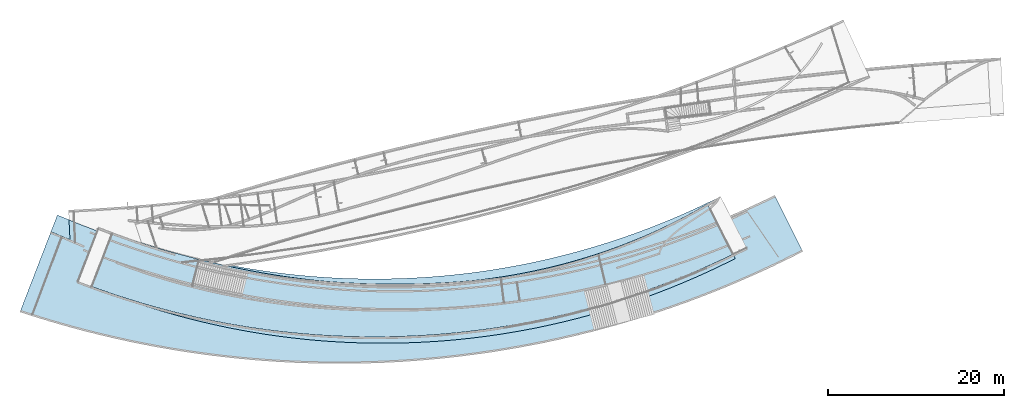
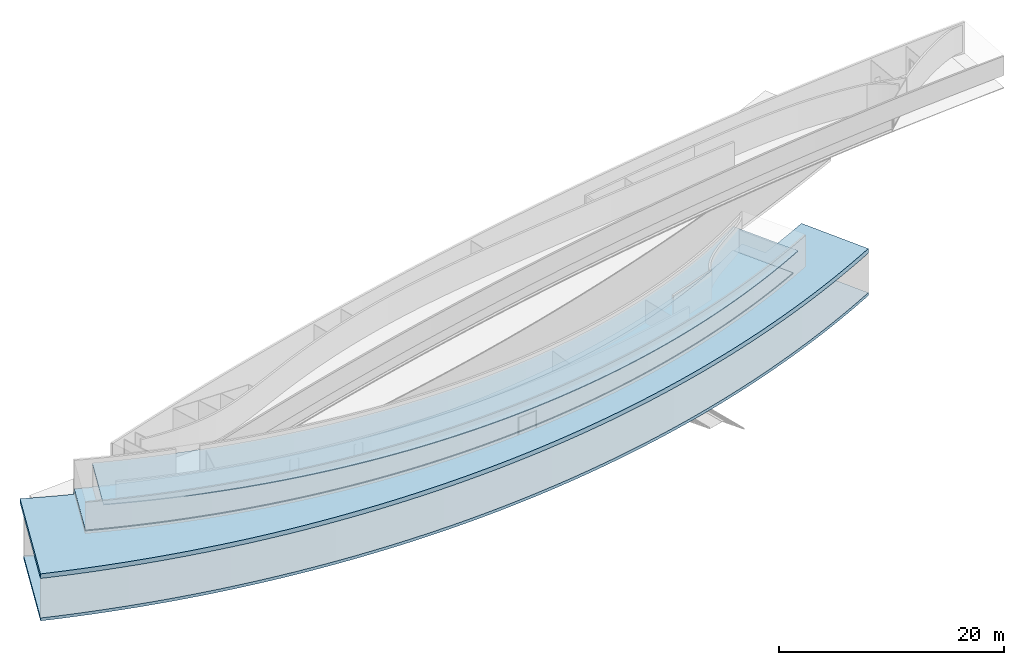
# Not in any storey, part 1 of 16: 4 slabs.
"""IFC2X3 model written with IfcOpenShell, lengths in millimetres."""

from ifc_helpers import new_model, entity, si_unit, converted_unit, point, direction, frame, frame_2d, origin_with_axes, place, context, project, spatial, polyline, circle_curve, trimmed, segment, composite_curve, outline, extrude, material, layer, layer_set, type_object, element, save


model = new_model("IFC2X3")

# Units and contexts
model_context = context("Model", 3, precision=1.0, world=origin_with_axes(), true_north=direction((0.0, 1.0)))
ifc_project = project(units=[converted_unit("PLANEANGLEUNIT", "DEGREE", entity("IfcRatioMeasure", 0.017453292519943), si_unit("PLANEANGLEUNIT", "RADIAN"), dimensions=[0, 0, 0, 0, 0, 0, 0]), si_unit("LENGTHUNIT", "METRE", prefix="MILLI")], contexts=[model_context])

# Site
site_placement = place(None, origin_with_axes())
site = spatial("IfcSite", under=ifc_project, at=site_placement, Name="Site", CompositionType="ELEMENT")

# Slabs
ifc_material_1 = material(Name="Slab layer 1")
ifc_layer_1 = layer(ifc_material_1, 320.0)
ifc_layer_set_1 = layer_set([ifc_layer_1], Name="HOKI 1FB")
slab_type_1 = type_object("IfcSlabType", Name="HOKI 1FB", PredefinedType="FLOOR", material=ifc_layer_set_1)
slab_1_placement = place(site_placement, frame((-56228.0985082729, -2741.82324854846, 4720.0), z_axis=(0.0, 0.0, 1.0), x_axis=(-0.360305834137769, -0.932834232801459, 0.0)))
element("IfcSlab", 1, at=slab_1_placement, inside=site, type_object=slab_type_1, ObjectType="HOKI 1FB", PredefinedType="FLOOR", context=model_context, shape_type="SweptSolid", body=[
    extrude(outline(composite_curve([segment(polyline([(2083.2343145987, 999.126972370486), (2150.22765443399, 3342.82345887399)]), True, "CONTINUOUS"), segment(polyline([(2150.22765443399, 3342.82345887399), (82.2299675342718, 2423.48125956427)]), True, "CONTINUOUS"), segment(polyline([(82.2299675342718, 2423.48125956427), (93.673241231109, 3051.10748346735), (101.074393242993, 3679.63938062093), (104.416716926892, 4309.03947701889), (103.683948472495, 4939.26998578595), (98.8602733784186, 5570.29281337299), (89.9303328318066, 6202.06956590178), (76.8792299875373, 6834.56155565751), (59.6925361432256, 7467.72980772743), (38.3562968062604, 8101.53506678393), (12.8570376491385, 8735.93780401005), (-16.8182296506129, 9370.89822416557), (-50.6820016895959, 10006.3762727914), (-88.7462777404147, 10642.3316435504), (-131.022554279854, 11278.7237857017), (-177.521819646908, 11915.5119117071), (-228.254548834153, 12552.655004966), (-283.230698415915, 13190.1118276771), (-342.459701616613, 13827.8409288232), (-405.950463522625, 14465.8006522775), (-473.711356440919, 15103.9491450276), (-545.750215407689, 15742.2443655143), (-622.074333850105, 16380.6440920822), (-702.690459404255, 17019.1059315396), (-787.604789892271, 17657.5873278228), (-876.822969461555, 18296.0455707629), (-970.350084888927, 18934.4378049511), (-1068.19066205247, 19572.7210386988), (-1170.34866257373, 20210.8521530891), (-1276.82748063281, 20848.7879111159), (-1387.6299399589, 21486.4849669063), (-1502.75829099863, 22123.8998750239), (-1622.21420826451, 22760.989099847), (-1745.9987878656, 23397.7090250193), (-1874.11254522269, 24034.0159629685), (-2006.55541296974, 24669.866164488), (-2143.32673904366, 25305.2158283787), (-2284.42528496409, 25940.0211111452), (-2429.84922430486, 26574.2381367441), (-2579.59614135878, 27207.823006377), (-2733.66302999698, 27840.7318083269), (-2892.04629272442, 28472.9206278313), (-3054.74173993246, 29104.3455569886), (-3221.74458934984, 29734.9627046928), (-3393.04946569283, 30364.7282065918), (-3568.65040051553, 30993.598235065), (-3748.54083226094, 31621.5290092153), (-3932.71360651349, 32248.4768048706), (-4121.16097645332, 32874.3979645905), (-4313.87460351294, 33499.2489076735), (-4510.84555823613, 34122.9861401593), (-4712.06432133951, 34745.5662648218), (-4917.5207849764, 35366.9459911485), (-5127.20425420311, 35987.0821453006), (-5341.10344864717, 36605.9316800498), (-5559.20650437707, 37223.4516846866), (-5781.50097597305, 37839.5993948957), (-6007.9738387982, 38454.3322025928), (-6238.61149146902, 39067.6076657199), (-6473.39975852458, 39679.3835179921), (-6712.32389329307, 40289.6176785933), (-6955.36858095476, 40898.2682618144), (-7202.51794179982, 41505.2935866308), (-7453.75553467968, 42110.652186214), (-7709.06436065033, 42714.3028173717), (-7968.42686680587, 43316.2044699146), (-8231.82495030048, 43916.316375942), (-8499.23996255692, 44514.5980190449), (-8770.65271365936, 45111.0091434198), (-9046.04347692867, 45705.5097628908), (-9325.39199367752, 46298.0601698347), (-9608.67747814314, 46888.6209440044), (-9895.87862259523, 47477.1529612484), (-10186.9736026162, 48063.6174021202), (-10481.9400825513, 48647.9757603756), (-10780.7552211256, 49230.1898513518), (-11083.3956772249, 49810.2218202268), (-11389.8376158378, 50388.0341501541), (-11700.0567141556, 50963.5896702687), (-12014.0281678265, 51536.8515635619), (-12331.7266973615, 52107.7833746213), (-12653.1265546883, 52676.3490172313), (-12978.2015298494, 53242.512781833), (-13306.9249578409, 53806.2393428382), (-13639.2697255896, 54367.4937657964), (-13975.2082790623, 54926.2415144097), (-14314.712630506, 55482.448457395), (-14657.7543658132, 56036.0808751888), (-15004.3046520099, 56587.1054664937), (-15354.3342448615, 57135.4893546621), (-15707.8134965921, 57681.2000939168), (-16064.7123637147, 58224.2056754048), (-16425.0004149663, 58764.474533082), (-16788.6468393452, 59301.975549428), (-17155.6204542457, 59836.6780609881), (-17525.8897136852, 60368.55186374), (-17899.422716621, 60897.567218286), (-18276.1872153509, 61423.6948548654), (-18656.1506239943, 61946.9059781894), (-19039.2800270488, 62467.1722720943), (-19425.5421880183, 62984.4659040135), (-19814.9035581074, 63498.759529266), (-20207.3302849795, 64010.0262951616), (-20602.7882215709, 64518.2398449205), (-21001.2429349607, 65023.3743214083), (-21402.6597152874, 65525.4043706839), (-21807.0035847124, 66024.3051453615), (-22214.2393064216, 66520.0523077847), (-22624.3313936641, 67012.6220330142), (-23037.2441188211, 67501.9910116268), (-23452.9415225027, 67988.1364523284), (-23871.3874226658, 68471.0360843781), (-24292.5454237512, 68950.6681598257), (-24716.3789258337, 69427.0114555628), (-25142.8511337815, 69900.0452751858), (-25571.9250664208, 70369.7494506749), (-26003.5635657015, 70836.1043438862), (-26437.7293058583, 71299.09084786), (-26874.3848025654, 71758.6903879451), (-27313.4924220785, 72214.8849227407), (-27755.0143903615, 72667.6569448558), (-28198.9128021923, 73116.9894814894), (-28645.1496302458, 73562.8660948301), (-29093.6867341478, 74005.2708822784), (-29544.4858694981, 74444.188476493), (-29997.508696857, 74879.6040452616), (-30452.7167906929, 75311.5032911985), (-30910.071648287, 75739.8724512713), (-31369.5346985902, 76164.6982961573)]), True, "CONTINUOUS"), segment(polyline([(-31369.5346985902, 76164.6982961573), (-26588.9971246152, 81421.6834085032)]), True, "CONTINUOUS"), segment(polyline([(-26588.9971246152, 81421.6834085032), (-26070.0650881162, 80956.7530310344), (-25553.3383801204, 80488.1254933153), (-25038.8545271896, 80015.814414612), (-24526.6509764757, 79539.8339016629), (-24016.7650880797, 79060.1985488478), (-23509.2341273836, 78576.9234382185), (-23004.0952573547, 78090.0241393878), (-22501.3855308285, 77599.5167092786), (-22001.1418827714, 77105.4176917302), (-21503.4011225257, 76607.744116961), (-21008.1999260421, 76106.5135008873), (-20515.5748280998, 75601.7438442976), (-20025.5622145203, 75093.4536318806), (-19538.1983143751, 74581.6618311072), (-19053.5191921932, 74066.3878909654), (-18571.5607401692, 73547.6517405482), (-18092.3586703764, 73025.473787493), (-17615.9485069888, 72499.8749162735), (-17142.3655785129, 71970.8764863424), (-16671.6450100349, 71438.5003301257), (-16203.8217154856, 70902.7687508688), (-15738.9303899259, 70363.7045203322), (-15277.0055018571, 69821.3308763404), (-14818.0812855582, 69275.67152018), (-14362.1917334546, 68726.7506138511), (-13909.3705885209, 68174.5927771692), (-13459.6513367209, 67619.2230847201), (-13013.0671994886, 67060.6670626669), (-12569.6511262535, 66498.9506854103), (-12129.4357870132, 65934.1003721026), (-11692.4535649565, 65366.1429830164), (-11258.7365491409, 64795.1058157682), (-10828.3165272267, 64221.0166013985), (-10401.2249782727, 63643.9035003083), (-9977.49306559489, 63063.7950980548), (-9557.15162969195, 62480.7204010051), (-9140.23118124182, 61894.7088318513), (-8726.76189417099, 61305.7902249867), (-8316.77359880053, 60713.9948217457), (-7910.29577507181, 60119.3532655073), (-7507.35754585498, 59521.8965966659), (-7107.98767034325, 58921.6562474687), (-6712.21453753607, 58318.6640367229), (-6320.06615981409, 57712.9521643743), (-5931.57016660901, 57104.5532059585), (-5546.75379817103, 56493.5001069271), (-5165.64389943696, 55879.8261768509), (-4788.26691400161, 55263.5650835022), (-4414.64887819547, 54644.7508468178), (-4044.81541527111, 54023.4178327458), (-3678.79172970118, 53399.6007469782), (-3316.60260159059, 52773.3346285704), (-2958.2723812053, 52144.6548434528), (-2603.82498362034, 51513.597077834), (-2253.28388348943, 50880.1973314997), (-1906.67210993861, 50244.4919110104), (-1564.01224158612, 49606.5174227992), (-1225.32640169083, 48966.3107661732), (-890.636253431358, 48323.9091262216), (-559.962995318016, 47679.3499666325), (-233.327356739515, 47032.6710224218), (89.2504063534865, 46383.9102925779), (407.750515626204, 45733.1060326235), (722.153674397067, 45080.2967470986), (1032.44107153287, 44425.5211819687), (1338.59438520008, 43768.8183169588), (1640.59578647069, 43110.2273578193), (1938.42794278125, 42449.787728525), (2232.07402124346, 41787.5390634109), (2521.51769180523, 41123.521199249), (2806.74313026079, 40457.774167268), (3087.73502110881, 39790.3381851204), (3364.47856025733, 39121.2536488), (3636.95945757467, 38450.561124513), (3905.16393928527, 37778.3013405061), (4169.0787502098, 37104.5151788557), (4428.69115584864, 36429.243667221), (4683.98894430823, 35752.5279705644), (4934.96042806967, 35074.4093828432), (5181.59444559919, 34394.9293186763), (5423.88036279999, 33714.1293049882), (5661.80807430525, 33032.0509726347), (5895.36800461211, 32348.7360480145), (6124.55110905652, 31664.2263446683), (6349.34887462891, 30978.5637548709), (6569.75332063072, 30291.7902412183), (6785.75699917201, 29603.9478282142), (6997.35299551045, 28915.0785938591), (7204.5349282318, 28225.2246612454), (7407.29694927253, 27534.4281901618), (7605.63374378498, 26842.7313687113), (7799.54052984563, 26150.1764049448), (7989.01305800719, 25456.8055185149), (8174.04761069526, 24762.6609323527), (8354.64100145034, 24067.7848643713), (8530.79057401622, 23372.2195191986), (8702.49420127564, 22676.007079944), (8869.75028403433, 21979.1897000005), (9032.55774965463, 21281.8094948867), (9190.91605053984, 20583.908534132), (9344.82516247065, 19885.528833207), (9494.28558279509, 19186.712345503), (9639.29832847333, 18487.5009543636), (9779.8649339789, 17787.9364651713), (9915.98744905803, 17088.0605974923), (10047.6684363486, 16387.9149772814), (10174.9109688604, 15687.5411291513), (10297.7186273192, 14986.9804687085), (10416.0954973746, 14286.2742949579), (10530.0461666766, 13585.46378278), (10639.5757218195, 12884.589975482), (10744.689745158, 12183.6937774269), (10845.3943114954, 11482.8159467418), (10941.6959846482, 10781.9970881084), (11033.6018138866, 10081.2776456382), (11121.1193302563, 9380.69789583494), (11204.2565427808, 8680.29794064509), (11283.0219345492, 7980.11770060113), (11357.4244586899, 7280.19690805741), (11427.4735342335, 6580.57510052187), (11493.1790418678, 5881.29161408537), (11554.5513195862, 5182.38557695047), (11611.6011582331, 4483.89590306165), (11664.3397969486, 3785.8612858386), (11712.7789185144, 3088.32019201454), (11756.9306446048, 2391.31085558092), (11796.8075309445, 1694.8712718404), (11832.4225623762, 999.039191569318)]), True, "CONTINUOUS"), segment(polyline([(11832.4225623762, 999.039191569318), (2083.2343145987, 999.126972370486)]), True, "DISCONTINUOUS")], self_intersect="UNKNOWN")), frame((0.0, 0.0, -320.0), z_axis=(0.0, 0.0, 1.0), x_axis=(1.0, 0.0, 0.0)), (0.0, 0.0, 1.0), 320.0),
])
ifc_material_2 = material(Name="Slab layer 1")
ifc_layer_2 = layer(ifc_material_2, 100.0)
ifc_layer_set_2 = layer_set([ifc_layer_2], Name="HOKI slab")
slab_type_2 = type_object("IfcSlabType", Name="HOKI slab", PredefinedType="FLOOR", material=ifc_layer_set_2)
slab_2_placement = place(site_placement, frame((-53095.9532852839, -10869.0505848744, 9850.0), z_axis=(0.0, 0.0, 1.0), x_axis=(0.360286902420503, 0.932841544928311, 0.0)))
element("IfcSlab", 2, at=slab_2_placement, inside=site, type_object=slab_type_2, ObjectType="HOKI slab", PredefinedType="FLOOR", context=model_context, shape_type="SweptSolid", body=[
    extrude(outline(composite_curve([segment(polyline([(6727.45744155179, 63.172810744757), (224.759638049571, 62.7009654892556)]), True, "CONTINUOUS"), segment(trimmed(circle_curve(frame_2d((93276.090838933, 197.084674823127), x_axis=(-0.999998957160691, -0.001444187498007)), 93051.4282385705), [point((224.759638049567, 62.7009654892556))], [point((29883.6130514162, 68314.3516281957))], False, "CARTESIAN"), True, "CONTINUOUS"), segment(polyline([(29883.6130514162, 68314.3516281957), (34154.9023441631, 63553.8372493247)]), True, "CONTINUOUS"), segment(polyline([(34154.9023441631, 63553.8372493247), (33766.8945851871, 63246.0167643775), (33380.7110054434, 62934.4877508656), (32996.3798945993, 62619.2548900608), (32613.9294631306, 62300.3233055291), (32233.3878365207, 61977.6985647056), (31854.7830494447, 61651.3866803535), (31478.1430399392, 61321.3941119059), (31103.4956435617, 60987.7277666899), (30730.8685875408, 60650.3950010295), (30360.2894849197, 60309.4036212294), (29991.7858286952, 59964.7618844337), (29625.3849859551, 59616.4784993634), (29261.1141920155, 59264.5626269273), (28899.000544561, 58909.0238807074), (28539.0709977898, 58549.8723273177), (28181.352356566, 58187.1184866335), (27825.8712705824, 57820.7733318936), (27472.6542285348, 57450.8482896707), (27121.7275523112, 57077.355239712), (26773.1173911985, 56700.3065146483), (26426.8497161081, 56319.7148995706), (26082.9503138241, 55935.5936314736), (25741.4447812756, 55547.9563985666), (25402.3585198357, 55156.8173394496), (25065.7167296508, 54762.1910421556), (24731.5444040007, 54364.0925430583), (24399.8663236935, 53962.5373256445), (24070.7070514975, 53557.5413191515), (23744.0909266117, 53149.1208970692), (23420.0420591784, 52737.292875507), (23098.5843248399, 52322.0745114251), (22779.7413593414, 51903.4835007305), (22463.5365531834, 51481.5379762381), (22149.9930463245, 51056.2565054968), (21839.133722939, 50627.6580884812), (21530.9812062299, 50195.7621551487), (21225.5578533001, 49760.5885628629), (20922.8857500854, 49322.1575936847), (20622.9867063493, 48880.489951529), (20325.8822507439, 48435.6067591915), (20031.5936259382, 47987.5295552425), (19740.1417838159, 47536.2802907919), (19451.5473807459, 47081.8813261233), (19165.8307729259, 46624.3554272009), (18883.0120118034, 46163.725762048), (18603.1108395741, 45700.015897), (18326.1466847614, 45233.2497928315), (18052.1386578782, 44763.45180076), (17781.1055471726, 44290.6466583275), (17513.0658144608, 43814.85948516), (17248.0375910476, 43336.1157786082), (16986.0386737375, 42854.44140927), (16727.0865209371, 42369.862616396), (16471.1982488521, 41882.4060031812), (16218.3906277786, 41392.0985319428), (15968.6800784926, 40898.9675191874), (15722.0826687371, 40403.0406305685), (15478.6141098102, 39904.3458757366), (15238.2897532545, 39402.9116030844), (15001.1245876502, 38898.7664943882), (14767.1332355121, 38391.9395593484), (14536.3299502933, 37882.4601300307), (14308.7286134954, 37370.3578552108), (14084.3427318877, 36855.6626946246), (13863.1854348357, 36338.4049131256), (13645.2694717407, 35818.6150747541), (13430.6072095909, 35296.3240367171), (13219.2106306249, 34771.5629432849), (13011.09133011, 34244.3632196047), (12806.260514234, 33714.7565654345), (12604.7289981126, 33182.7749488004), (12406.5072039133, 32648.4505995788), (12211.605159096, 32111.8160030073), (12020.03249477, 31572.9038931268), (11831.7984441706, 31031.7472461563), (11646.9118412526, 30488.3792738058), (11465.3811194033, 29942.8334165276), (11287.2143102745, 29395.14333671), (11112.4190427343, 28845.3429118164), (10941.0025419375, 28293.4662274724), (10772.9716285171, 27739.5475705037), (10608.3327178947, 27183.6214219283), (10447.0918197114, 26625.7224499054), (10289.2545373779, 26065.8855026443), (10134.8260677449, 25504.1456012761), (9983.81120089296, 24940.5379326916), (9836.21432004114, 24375.0978423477), (9692.03940157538, 23807.8608270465), (9551.29001519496, 23238.8625276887), (9413.96932417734, 22668.1387220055), (9280.08008576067, 22095.7253172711), (9149.62465164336, 21521.6583430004), (9022.60496860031, 20945.9739436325), (8899.02257921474, 20368.7083712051), (8778.87862272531, 19789.8979780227), (8662.17383598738, 19209.5792093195), (8548.90855454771, 18627.7885959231), (8439.08271383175, 18044.5627469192), (8332.69585044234, 17459.9383423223), (8229.747103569, 16873.9521257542), (8130.23521650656, 16286.6408971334), (8034.15853828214, 15698.0415053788), (7941.51502538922, 15108.1908411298), (7852.30224362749, 14517.1258294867), (7766.51737004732, 13924.8834227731), (7684.1571949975, 13331.5005933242), (7605.2181242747, 12737.0143263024), (7529.69618137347, 12141.4616125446), (7457.58700983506, 11544.8794414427), (7388.88587569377, 10947.3047938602), (7323.58767001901, 10348.7746350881), (7261.68691155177, 9749.32590784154), (7203.17774943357, 9148.99552530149), (7148.0539660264, 8547.82036420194), (7096.30897982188, 7945.83725796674), (7047.93584843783, 7343.08298989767), (7002.92727170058, 6739.59428641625), (6961.27559481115, 6135.40781036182), (6922.97281159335, 5530.56015434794), (6888.01056782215, 4925.0878341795), (6856.38016463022, 4319.02728233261), (6828.07256199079, 3712.41484149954), (6803.07838227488, 3105.28675820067), (6781.38791388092, 2497.67917646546), (6762.99111493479, 1889.62813158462), (6747.87761705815, 1281.16954393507), (6736.03672920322, 672.339212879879), (6727.45744155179, 63.172810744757)]), True, "CONTINUOUS")], self_intersect="UNKNOWN")), frame((0.0, 0.0, -100.0), z_axis=(0.0, 0.0, -1.0), x_axis=(1.0, 0.0, 0.0)), (0.0, 0.0, -1.0), 100.0),
])
slab_3_placement = place(site_placement, frame((-53082.7506335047, -10869.0505848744, 12450.0), z_axis=(0.0, 0.0, 1.0), x_axis=(0.360286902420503, 0.932841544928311, 0.0)))
element("IfcSlab", 3, at=slab_3_placement, inside=site, type_object=slab_type_2, ObjectType="HOKI slab", PredefinedType="FLOOR", context=model_context, shape_type="SweptSolid", body=[
    extrude(outline(composite_curve([segment(polyline([(6729.26174993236, 1675.00000000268), (231.830495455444, 1675.00000000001)]), True, "CONTINUOUS"), segment(trimmed(circle_curve(frame_2d((88300.0083609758, 3101.68702145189), x_axis=(-0.999868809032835, -0.016197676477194)), 88079.7331308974), [point((231.830495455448, 1675.00000000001))], [point((29526.6393752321, 68704.5107905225))], False, "CARTESIAN"), True, "CONTINUOUS"), segment(polyline([(29526.6393752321, 68704.5107905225), (34154.902344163, 63553.8372493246)]), True, "CONTINUOUS"), segment(polyline([(34154.902344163, 63553.8372493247), (33766.8311362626, 63246.0653707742), (33380.5849506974, 62934.7831308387), (32996.1920918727, 62619.9958945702), (32613.6807849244, 62301.7094500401), (32233.0791699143, 61979.9300096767), (31854.4152960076, 61654.6642114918), (31477.7171156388, 61325.9191201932), (31103.0124786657, 60993.7022281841), (30730.329126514, 60658.0214564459), (30359.6946863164, 60318.8851553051), (29991.1366650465, 59976.3021050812), (29624.6824436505, 59630.2815166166), (29260.3592711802, 59280.8330316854), (28898.1942589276, 58927.9667232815), (28538.2143745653, 58571.6930957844), (28180.4464362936, 58212.023085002), (27824.9171069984, 57848.9680580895), (27471.6528884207, 57482.5398133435), (27120.6801153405, 57112.750579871), (26772.024949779, 56739.6130171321), (26425.7133752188, 56363.1402143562), (26081.7711908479, 55983.345689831), (25740.2240058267, 55600.2433900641), (25401.0972335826, 55213.8476888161), (25064.4160861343, 54824.1733860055), (24730.2055684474, 54431.2357064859), (24398.4904728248, 54035.0502986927), (24069.2953733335, 53635.6332331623), (23742.6446202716, 53233.0010009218), (23418.5623346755, 52827.1705117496), (23097.0724028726, 52418.1590923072), (22778.1984710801, 52005.9844841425), (22461.9639400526, 51590.6648415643), (22148.3919597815, 51172.2187293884), (21837.5054242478, 50750.6651205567), (21529.3269662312, 50326.0233936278), (21223.8789521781, 49898.3133301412), (20921.1834771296, 49467.5551118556), (20621.2623597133, 49033.7693178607), (20324.1371372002, 48596.9769215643), (20029.8290606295, 48157.199287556), (19738.3590900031, 47714.4581683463), (19449.7478895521, 47268.7757009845), (19164.0158230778, 46820.1744035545), (18881.1829493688, 46368.6771715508), (18601.2690176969, 45914.3072741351), (18324.2934633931, 45457.0883502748), (18050.2754035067, 44997.0444047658), (17779.2336325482, 44534.1998041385), (17511.1866183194, 44068.5792724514), (17246.1524978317, 43600.2078869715), (16984.1490733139, 43129.1110737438), (16725.1938083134, 42655.3146030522), (16469.3038238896, 42178.8445847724), (16216.4958949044, 41699.7274636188), (15966.7864464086, 41217.9900142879), (15720.191550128, 40733.6593364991), (15476.7269210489, 40246.7628499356), (15236.4079141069, 39757.3282890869), (14999.2495209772, 39265.3836979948), (14765.2663669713, 38770.9574249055), (14534.4727080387, 38274.07811683), (14306.8824278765, 37774.7747140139), (14082.5090351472, 37273.0764443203), (13861.3656608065, 36769.0128175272), (13643.4650555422, 36262.6136195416), (13428.8195873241, 35753.9089065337), (13217.4412390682, 35242.9289989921), (13009.3416064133, 34729.7044757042), (12804.5318956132, 34214.2661676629), (12603.0229215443, 33696.6451519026), (12404.8251058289, 33176.8727452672), (12209.948475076, 32654.9804981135), (12018.4026592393, 32131.0001879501), (11830.1968900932, 31604.9638130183), (11645.3399998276, 31076.9035858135), (11463.8404197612, 30546.851926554), (11285.7061791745, 30014.841456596), (11110.9449042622, 29480.9049918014), (10939.5638172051, 28945.0755358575), (10771.5697353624, 28407.3862735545), (10606.9690705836, 27867.8705640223), (10445.7678286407, 27326.5619339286), (10287.9716087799, 26783.4940706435), (10133.5856033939, 26238.7008153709), (9982.614597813, 25692.2161562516), (9835.06297021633, 25144.0742214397), (9690.93469166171, 24594.3092721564), (9550.23332623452, 24042.9556957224), (9412.96203131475, 23490.0479985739), (9279.12355796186, 22935.6207992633), (9148.72025141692, 22379.7088214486), (9021.75405172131, 21822.3468868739), (8898.22649445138, 21263.5699083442), (8778.13871156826, 20703.412882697), (8661.49143238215, 20141.9108837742), (8548.28498462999, 19579.0990553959), (8438.51929566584, 19015.012604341), (8332.19389376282, 18449.6867933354), (8229.30790952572, 17883.1569340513), (8129.86007741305, 17315.4583801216), (8033.84873736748, 16746.6265201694), (7941.27183655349, 16176.6967708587), (7852.12693120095, 15605.7045699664), (7766.41118855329, 15033.6853694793), (7684.12138891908, 14460.674628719), (7605.25392782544, 13886.7078074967), (7529.804818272, 13311.8203593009), (7457.7696930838, 12736.0477245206), (7389.14380736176, 12159.4253237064), (7323.92204102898, 11581.9885508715), (7262.09890147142, 11003.7727668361), (7203.66852627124, 10424.8132926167), (7148.62468603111, 9845.14540286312), (7096.96078728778, 9264.80431934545), (7048.66987551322, 8683.82520449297), (7003.74463820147, 8102.24315498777), (6962.17740803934, 7520.09319541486), (6923.96016615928, 6937.41027197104), (6889.08454547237, 6354.22924623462), (6857.54183407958, 5770.58488899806), (6829.32297875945, 5186.51187416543), (6804.41858853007, 4602.04477271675), (6782.8189382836, 4017.21804674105), (6764.51397249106, 3432.06604353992), (6749.49330897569, 2846.62298980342), (6737.74624275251, 2260.9229858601), (6729.26174993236, 1675.00000000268)]), True, "CONTINUOUS")], self_intersect="UNKNOWN")), frame((0.0, 0.0, -100.0), z_axis=(0.0, 0.0, -1.0), x_axis=(1.0, 0.0, 0.0)), (0.0, 0.0, -1.0), 100.0),
])
ifc_material_3 = material(Name="Slab layer 1")
ifc_layer_3 = layer(ifc_material_3, 500.0)
ifc_layer_set_3 = layer_set([ifc_layer_3], Name="HOKI 1FB UP")
slab_type_3 = type_object("IfcSlabType", Name="HOKI 1FB UP", PredefinedType="FLOOR", material=ifc_layer_set_3)
slab_4_placement = place(site_placement, frame((26123.5657594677, -921.832566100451, 9499.99774796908), z_axis=(0.0, 0.0, 1.0), x_axis=(-0.896421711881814, -0.443202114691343, 0.0)))
element("IfcSlab", 4, at=slab_4_placement, inside=site, type_object=slab_type_3, ObjectType="HOKI 1FB UP", PredefinedType="FLOOR", context=model_context, shape_type="SweptSolid", body=[
    extrude(outline(composite_curve([segment(polyline([(70732.6284295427, 30485.4424049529), (70428.1826580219, 30765.1379698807)]), True, "CONTINUOUS"), segment(trimmed(circle_curve(frame_2d((6360.83044983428, 89624.0742585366), x_axis=(0.736406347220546, -0.676539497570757)), 87000.0000000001), [point((70428.1826580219, 30765.1379698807))], [point((5563.78742243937, 2627.72535576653))], False, "CARTESIAN"), True, "CONTINUOUS"), segment(polyline([(5563.78742243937, 2627.72535576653), (5534.71416253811, 157.543131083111)]), True, "CONTINUOUS"), segment(polyline([(5534.71416253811, 157.543131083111), (4840.02054861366, 120.453842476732), (4146.03951126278, 88.3733846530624), (3452.82305201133, 61.2833899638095), (2760.42275966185, 39.1648042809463), (2068.88979962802, 21.9978968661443), (1378.2749035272, 9.76227042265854), (688.628359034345, 2.43687132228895), (0.0, 0.0)]), True, "CONTINUOUS"), segment(polyline([(0.0, 0.0), (-35.9956496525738, -7105.50042437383)]), True, "CONTINUOUS"), segment(polyline([(-35.9956496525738, -7105.50042437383), (660.692970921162, -7114.18662102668), (1358.25876443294, -7118.65819594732), (2056.66488183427, -7118.89979100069), (2755.87420276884, -7114.89646075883), (3455.84934108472, -7106.63367779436), (4156.55265046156, -7094.09733789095), (4857.94623015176, -7077.27376516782), (5559.99193083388, -7056.14971711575), (6262.65136057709, -7030.71238954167), (6965.88589091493, -7000.94942141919), (7669.65666302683, -6966.84889964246), (8373.92459402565, -6928.3993636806), (9078.65038334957, -6885.58981013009), (9783.7945192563, -6838.40969716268), (10489.3172854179, -6786.84894886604), (11195.1787676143, -6730.8979594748), (11901.3388605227, -6670.54759748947), (12607.7572746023, -6605.78920968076), (13314.3935430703, -6536.614624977), (14021.2070289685, -6463.01615823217), (14728.1569323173, -6384.98661387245), (15435.2022973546, -6302.51928941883), (16142.302019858, -6215.60797888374), (16849.4148545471, -6124.24697603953), (17556.4994225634, -6028.43107755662), (18263.5142190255, -5928.15558600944), (18970.4176206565, -5823.41631274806), (19677.1678934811, -5714.20958063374), (20383.7232005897, -5600.53222663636), (21090.0416099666, -5482.38160429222), (21796.0811023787, -5359.75558602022), (22501.7995793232, -5232.65256529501), (23207.1548710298, -5101.07145867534), (23912.1047445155, -4965.01170768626), (24616.606911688, -4824.47328055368), (25320.6190374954, -4679.45667378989), (26024.0987481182, -4529.96291362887), (26727.0036392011, -4375.99355731), (27429.2912841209, -4217.55069420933), (28130.9192422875, -4054.63694681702), (28831.8450674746, -3887.2554715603), (29532.0263161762, -3715.40995947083), (30231.4205559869, -3539.1046366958), (30929.985374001, -3358.34426485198), (31627.6783852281, -3173.13414122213), (32324.4572410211, -2983.48009879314), (33020.2796375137, -2789.38850613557), (33715.1033240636, -2590.86626712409), (34408.8861116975, -2387.92082049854), (35101.5858815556, -2180.56013926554), (35793.1605933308, -1968.79272994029), (36483.5682936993, -1752.62763162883), (37172.7671247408, -1532.07441495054), (37860.7153323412, -1307.14318080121), (38547.3712745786, -1077.84455895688), (39232.6934300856, -844.189706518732), (39916.6404063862, -606.190306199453), (40599.170948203, -363.858564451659), (41280.2439457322, -117.207209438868), (41959.8184428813, 133.750511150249), (42637.8536454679, 389.000832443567), (43314.3089293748, 648.52947488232), (43989.1438486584, 912.321646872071), (44662.3181436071, 1180.36204758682), (45333.7917487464, 1452.63486992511), (46003.524800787, 1729.12380361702), (46671.477646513, 2009.81203848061), (47337.6108506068, 2294.68226782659), (48001.8852034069, 2583.71669200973), (48664.2617285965, 2876.89702212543), (49324.701690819, 3174.20448384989), (49983.1666032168, 3475.61982142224), (50639.6182348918, 3781.1233017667), (51294.0186182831, 4090.69471875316), (51946.3300564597, 4404.31339759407), (52596.5151303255, 4721.95819937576), (53244.536705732, 5043.60752572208), (53890.357940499, 5369.23932358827), (54533.9422913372, 5698.83109018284), (55175.2535206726, 6032.35987801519), (55814.255703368, 6369.80230006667), (56450.9132333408, 6711.13453508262), (57085.1908300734, 7056.33233298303), (57717.0535450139, 7405.37102038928), (58346.4667678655, 7758.22550626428), (58973.3962327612, 8114.87028766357), (59597.8080243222, 8475.27945559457), (60219.6685835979, 8839.42670098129), (60838.9447138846, 9207.28532073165), (61455.6035864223, 9578.82822390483), (62069.6127459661, 9954.02793797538), (62680.9401162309, 10332.8566151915), (63289.5540052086, 10715.2860390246), (63895.4231103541, 11101.2876307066), (64498.5165236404, 11490.8324558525), (65098.8037364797, 11883.8912311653), (65696.2546445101, 12280.4343312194), (66290.8395522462, 12680.43179532), (66882.5291775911, 13083.8533344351), (67471.2946562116, 13490.6683381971), (68057.1075457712, 13900.8458819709), (68639.9398300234, 14314.3547339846), (69219.7639227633, 14731.1633625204), (69796.5526716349, 15151.239943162), (70370.2793617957, 15574.5523660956), (70940.9177194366, 16001.0682434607), (71508.4419151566, 16430.7549167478), (72072.8265671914, 16863.5794642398), (72634.0467444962, 17299.5087084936), (73192.077969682, 17738.5092238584), (73746.8962218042, 18180.5473440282), (74298.4779390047, 18625.5891696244), (74846.8000210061, 19073.6005758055), (75391.8398314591, 19524.5472199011), (75933.5752001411, 19978.394549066), (76471.9844250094, 20435.1078079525), (77007.0462741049, 20894.6520463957), (77538.7399873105, 21356.9921271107), (78067.0452779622, 21822.0927333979), (78591.9423343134, 22289.9183768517), (79113.4118208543, 22760.4334050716), (79631.4348794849, 23233.6020093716), (80145.9931305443, 23709.3882324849), (80657.0686736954, 24187.7559762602), (81164.6440886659, 24668.669009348), (81668.7024358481, 25152.0909748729), (82169.227256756, 25637.9853980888), (82666.202574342, 26126.3156940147)]), True, "CONTINUOUS"), segment(polyline([(82666.202574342, 26126.3156940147), (73982.8583618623, 34103.2701114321)]), True, "CONTINUOUS"), segment(polyline([(73982.8583618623, 34103.2701114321), (73588.3442229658, 33644.3201958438), (73190.4462405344, 33187.2202027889), (72789.1750920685, 32732.0054389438), (72384.5419238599, 32278.7111685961), (71976.5583518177, 31827.3726061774), (71565.2364621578, 31378.0249087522), (71150.588811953, 30930.7031684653), (70732.6284295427, 30485.4424049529)]), True, "CONTINUOUS")], self_intersect="UNKNOWN")), frame((3.638e-12, 0.0, -500.000000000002), z_axis=(0.0, -8.54612e-08, -0.999999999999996), x_axis=(1.0, 0.0, 0.0)), (0.0, 8.54612e-08, -0.999999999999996), 500.000000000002),
])

save(model, "model.ifc")
